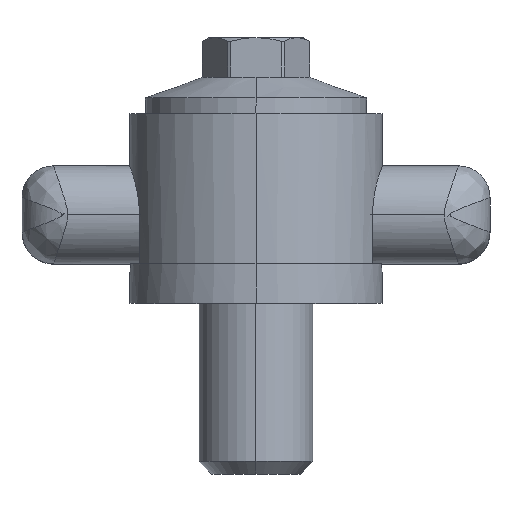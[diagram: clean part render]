
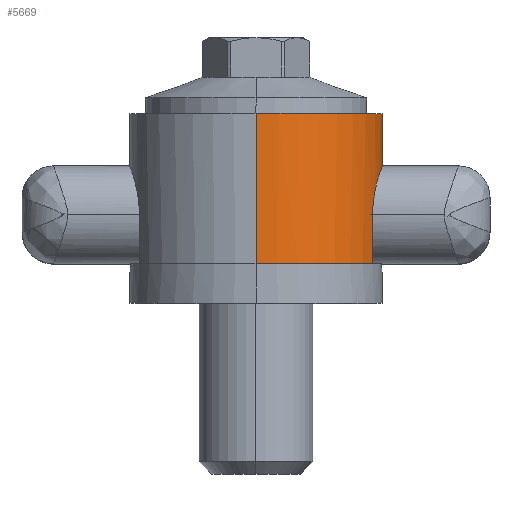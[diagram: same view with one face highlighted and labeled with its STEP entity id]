
A CAD part, top view. The second image highlights one B-rep face of the part: STEP entity #5669.
In plain terms, the highlighted cylindrical face has radius 40 mm (diameter 80 mm), a partial arc.
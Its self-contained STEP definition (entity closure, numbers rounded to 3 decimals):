
#139 = VERTEX_POINT ( 'NONE', #758 ) ;
#148 = EDGE_CURVE ( 'NONE', #150, #139, #817, .T. ) ;
#149 = ORIENTED_EDGE ( 'NONE', *, *, #153, .T. ) ;
#150 = VERTEX_POINT ( 'NONE', #812 ) ;
#152 = ORIENTED_EDGE ( 'NONE', *, *, #148, .F. ) ;
#153 = EDGE_CURVE ( 'NONE', #150, #155, #807, .T. ) ;
#155 = VERTEX_POINT ( 'NONE', #803 ) ;
#162 = ORIENTED_EDGE ( 'NONE', *, *, #164, .F. ) ;
#163 = VERTEX_POINT ( 'NONE', #787 ) ;
#164 = EDGE_CURVE ( 'NONE', #5617, #163, #851, .T. ) ;
#166 = VERTEX_POINT ( 'NONE', #847 ) ;
#190 = ORIENTED_EDGE ( 'NONE', *, *, #192, .F. ) ;
#192 = EDGE_CURVE ( 'NONE', #163, #166, #883, .T. ) ;
#196 = VERTEX_POINT ( 'NONE', #876 ) ;
#199 = ORIENTED_EDGE ( 'NONE', *, *, #200, .T. ) ;
#200 = EDGE_CURVE ( 'NONE', #155, #196, #870, .T. ) ;
#758 = CARTESIAN_POINT ( 'NONE',  ( 0., 12.5, 40. ) ) ;
#787 = CARTESIAN_POINT ( 'NONE',  ( 0., 12.5, -40. ) ) ;
#803 = CARTESIAN_POINT ( 'NONE',  ( 36.875, 28., 15.5 ) ) ;
#804 = DIRECTION ( 'NONE',  ( 0., 1., 0. ) ) ;
#805 = VECTOR ( 'NONE', #804, 1000. ) ;
#806 = CARTESIAN_POINT ( 'NONE',  ( 36.875, 84., 15.5 ) ) ;
#807 = LINE ( 'NONE', #806, #805 ) ;
#812 = CARTESIAN_POINT ( 'NONE',  ( 36.875, 12.5, 15.5 ) ) ;
#813 = DIRECTION ( 'NONE',  ( 0., 0., -1. ) ) ;
#814 = DIRECTION ( 'NONE',  ( 0., -1., 0. ) ) ;
#815 = CARTESIAN_POINT ( 'NONE',  ( 0., 12.5, 0. ) ) ;
#816 = AXIS2_PLACEMENT_3D ( 'NONE', #815, #814, #813 ) ;
#817 = CIRCLE ( 'NONE', #816, 40. ) ;
#847 = CARTESIAN_POINT ( 'NONE',  ( 36.875, 12.5, -15.5 ) ) ;
#848 = DIRECTION ( 'NONE',  ( 0., -1., 0. ) ) ;
#849 = VECTOR ( 'NONE', #848, 1000. ) ;
#850 = CARTESIAN_POINT ( 'NONE',  ( 0., 84., -40. ) ) ;
#851 = LINE ( 'NONE', #850, #849 ) ;
#852 = CARTESIAN_POINT ( 'NONE',  ( 38.963, 40.588, 9.059 ) ) ;
#853 = CARTESIAN_POINT ( 'NONE',  ( 38.866, 40.285, 9.464 ) ) ;
#854 = CARTESIAN_POINT ( 'NONE',  ( 38.669, 39.647, 10.239 ) ) ;
#855 = CARTESIAN_POINT ( 'NONE',  ( 38.569, 39.311, 10.609 ) ) ;
#856 = CARTESIAN_POINT ( 'NONE',  ( 38.368, 38.604, 11.316 ) ) ;
#857 = CARTESIAN_POINT ( 'NONE',  ( 38.266, 38.233, 11.653 ) ) ;
#858 = CARTESIAN_POINT ( 'NONE',  ( 38.066, 37.455, 12.293 ) ) ;
#859 = CARTESIAN_POINT ( 'NONE',  ( 37.966, 37.046, 12.596 ) ) ;
#860 = CARTESIAN_POINT ( 'NONE',  ( 37.68, 35.789, 13.439 ) ) ;
#861 = CARTESIAN_POINT ( 'NONE',  ( 37.504, 34.903, 13.915 ) ) ;
#862 = CARTESIAN_POINT ( 'NONE',  ( 37.28, 33.5, 14.5 ) ) ;
#863 = CARTESIAN_POINT ( 'NONE',  ( 37.211, 33.017, 14.674 ) ) ;
#864 = CARTESIAN_POINT ( 'NONE',  ( 37.092, 32.039, 14.973 ) ) ;
#865 = CARTESIAN_POINT ( 'NONE',  ( 37.041, 31.545, 15.098 ) ) ;
#866 = CARTESIAN_POINT ( 'NONE',  ( 36.918, 30.05, 15.397 ) ) ;
#867 = CARTESIAN_POINT ( 'NONE',  ( 36.875, 29.035, 15.5 ) ) ;
#868 = CARTESIAN_POINT ( 'NONE',  ( 36.875, 28., 15.5 ) ) ;
#870 = B_SPLINE_CURVE_WITH_KNOTS ( 'NONE', 3,
 ( #868, #867, #866, #865, #864, #863, #862, #861, #860, #859, #858, #857, #856, #855, #854, #853, #852, #927, #926, #925, #924, #923, #922, #921, #920, #919, #918, #917, #916, #915, #914, #913, #912, #911, #910, #909, #908, #907, #906, #905, #904, #903, #902, #901, #900, #899, #898, #897, #896, #895 ),
 .UNSPECIFIED., .F., .F.,
 ( 4, 2, 2, 2, 2, 2, 2, 2, 2, 2, 2, 2, 2, 2, 2, 2, 2, 2, 2, 2, 2, 2, 2, 2, 4 ),
 ( 0., 0.003, 0.005, 0.006, 0.009, 0.011, 0.012, 0.014, 0.015, 0.018, 0.02, 0.021, 0.024, 0.026, 0.028, 0.031, 0.034, 0.035, 0.037, 0.04, 0.041, 0.043, 0.046, 0.047, 0.049 ),
 .UNSPECIFIED. ) ;
#876 = CARTESIAN_POINT ( 'NONE',  ( 36.875, 28., -15.5 ) ) ;
#879 = DIRECTION ( 'NONE',  ( 0., 0., -1. ) ) ;
#880 = DIRECTION ( 'NONE',  ( 0., -1., 0. ) ) ;
#881 = CARTESIAN_POINT ( 'NONE',  ( 0., 12.5, 0. ) ) ;
#882 = AXIS2_PLACEMENT_3D ( 'NONE', #881, #880, #879 ) ;
#883 = CIRCLE ( 'NONE', #882, 40. ) ;
#895 = CARTESIAN_POINT ( 'NONE',  ( 36.875, 28., -15.5 ) ) ;
#896 = CARTESIAN_POINT ( 'NONE',  ( 36.875, 28.517, -15.5 ) ) ;
#897 = CARTESIAN_POINT ( 'NONE',  ( 36.886, 29.032, -15.474 ) ) ;
#898 = CARTESIAN_POINT ( 'NONE',  ( 36.929, 30.057, -15.372 ) ) ;
#899 = CARTESIAN_POINT ( 'NONE',  ( 36.961, 30.568, -15.294 ) ) ;
#900 = CARTESIAN_POINT ( 'NONE',  ( 37.086, 32.079, -14.989 ) ) ;
#901 = CARTESIAN_POINT ( 'NONE',  ( 37.207, 33.045, -14.69 ) ) ;
#902 = CARTESIAN_POINT ( 'NONE',  ( 37.43, 34.441, -14.108 ) ) ;
#903 = CARTESIAN_POINT ( 'NONE',  ( 37.512, 34.896, -13.89 ) ) ;
#904 = CARTESIAN_POINT ( 'NONE',  ( 37.686, 35.789, -13.41 ) ) ;
#905 = CARTESIAN_POINT ( 'NONE',  ( 37.779, 36.226, -13.147 ) ) ;
#906 = CARTESIAN_POINT ( 'NONE',  ( 38.065, 37.48, -12.304 ) ) ;
#907 = CARTESIAN_POINT ( 'NONE',  ( 38.267, 38.251, -11.669 ) ) ;
#908 = CARTESIAN_POINT ( 'NONE',  ( 38.571, 39.316, -10.604 ) ) ;
#909 = CARTESIAN_POINT ( 'NONE',  ( 38.672, 39.657, -10.228 ) ) ;
#910 = CARTESIAN_POINT ( 'NONE',  ( 38.871, 40.299, -9.447 ) ) ;
#911 = CARTESIAN_POINT ( 'NONE',  ( 38.967, 40.599, -9.043 ) ) ;
#912 = CARTESIAN_POINT ( 'NONE',  ( 39.243, 41.438, -7.791 ) ) ;
#913 = CARTESIAN_POINT ( 'NONE',  ( 39.412, 41.916, -6.902 ) ) ;
#914 = CARTESIAN_POINT ( 'NONE',  ( 39.696, 42.703, -5.011 ) ) ;
#915 = CARTESIAN_POINT ( 'NONE',  ( 39.808, 42.999, -4.039 ) ) ;
#916 = CARTESIAN_POINT ( 'NONE',  ( 39.922, 43.299, -2.541 ) ) ;
#917 = CARTESIAN_POINT ( 'NONE',  ( 39.952, 43.375, -2.035 ) ) ;
#918 = CARTESIAN_POINT ( 'NONE',  ( 39.991, 43.476, -1.009 ) ) ;
#919 = CARTESIAN_POINT ( 'NONE',  ( 40., 43.501, -0.493 ) ) ;
#920 = CARTESIAN_POINT ( 'NONE',  ( 40., 43.499, 1.041 ) ) ;
#921 = CARTESIAN_POINT ( 'NONE',  ( 39.96, 43.397, 2.054 ) ) ;
#922 = CARTESIAN_POINT ( 'NONE',  ( 39.845, 43.095, 3.558 ) ) ;
#923 = CARTESIAN_POINT ( 'NONE',  ( 39.797, 42.968, 4.059 ) ) ;
#924 = CARTESIAN_POINT ( 'NONE',  ( 39.685, 42.668, 5.035 ) ) ;
#925 = CARTESIAN_POINT ( 'NONE',  ( 39.621, 42.496, 5.511 ) ) ;
#926 = CARTESIAN_POINT ( 'NONE',  ( 39.41, 41.912, 6.907 ) ) ;
#927 = CARTESIAN_POINT ( 'NONE',  ( 39.243, 41.436, 7.794 ) ) ;
#2402 = DIRECTION ( 'NONE',  ( 0., -1., 0. ) ) ;
#2403 = VECTOR ( 'NONE', #2402, 1000. ) ;
#2404 = CARTESIAN_POINT ( 'NONE',  ( 36.875, 84., -15.5 ) ) ;
#2405 = LINE ( 'NONE', #2404, #2403 ) ;
#3850 = CARTESIAN_POINT ( 'NONE',  ( 0., 60., 40. ) ) ;
#3851 = CARTESIAN_POINT ( 'NONE',  ( 0., 60., -40. ) ) ;
#3857 = DIRECTION ( 'NONE',  ( 0., -1., 0. ) ) ;
#3858 = VECTOR ( 'NONE', #3857, 1000. ) ;
#3859 = CARTESIAN_POINT ( 'NONE',  ( 0., 84., 40. ) ) ;
#3860 = LINE ( 'NONE', #3859, #3858 ) ;
#3883 = CIRCLE ( 'NONE', #3944, 40. ) ;
#3941 = DIRECTION ( 'NONE',  ( 0., 0., 1. ) ) ;
#3942 = DIRECTION ( 'NONE',  ( 0., 1., 0. ) ) ;
#3943 = CARTESIAN_POINT ( 'NONE',  ( 0., 60., 0. ) ) ;
#3944 = AXIS2_PLACEMENT_3D ( 'NONE', #3943, #3942, #3941 ) ;
#3958 = DIRECTION ( 'NONE',  ( 0., 0., -1. ) ) ;
#3959 = DIRECTION ( 'NONE',  ( 0., -1., 0. ) ) ;
#3960 = AXIS2_PLACEMENT_3D ( 'NONE', #3963, #3959, #3958 ) ;
#3963 = CARTESIAN_POINT ( 'NONE',  ( 0., 84., 0. ) ) ;
#3964 = CYLINDRICAL_SURFACE ( 'NONE', #3960, 40. ) ;
#3967 = FACE_OUTER_BOUND ( 'NONE', #5651, .T. ) ;
#4584 = ORIENTED_EDGE ( 'NONE', *, *, #4671, .T. ) ;
#4671 = EDGE_CURVE ( 'NONE', #196, #166, #2405, .T. ) ;
#5613 = EDGE_CURVE ( 'NONE', #5618, #139, #3860, .T. ) ;
#5614 = ORIENTED_EDGE ( 'NONE', *, *, #5613, .T. ) ;
#5617 = VERTEX_POINT ( 'NONE', #3851 ) ;
#5618 = VERTEX_POINT ( 'NONE', #3850 ) ;
#5649 = EDGE_CURVE ( 'NONE', #5618, #5617, #3883, .T. ) ;
#5651 = EDGE_LOOP ( 'NONE', ( #5652, #5614, #152, #149, #199, #4584, #190, #162 ) ) ;
#5652 = ORIENTED_EDGE ( 'NONE', *, *, #5649, .F. ) ;
#5669 = ADVANCED_FACE ( 'NONE', ( #3967 ), #3964, .T. ) ;
